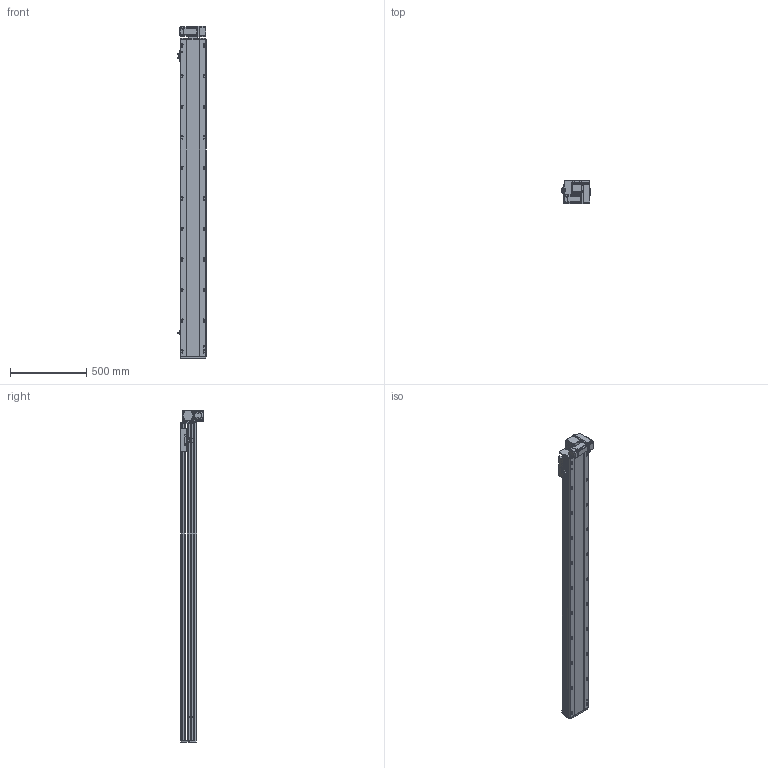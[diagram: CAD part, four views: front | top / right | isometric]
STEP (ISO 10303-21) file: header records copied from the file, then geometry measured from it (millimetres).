
FILE_DESCRIPTION (( 'STEP AP214' ), '1' );
FILE_NAME ('RTB17S-XX-1800-RM-M40-C4.STEP', '2025-12-11T08:23:27', ( '' ), ( '' ), 'SwSTEP 2.0', 'SolidWorks 2018', '' );
FILE_SCHEMA (( 'AUTOMOTIVE_DESIGN' ));
Length unit declared in the file: millimetre
Products named in the file (14): RTB14-L-005P--轴承塑胶压盖^RTB17S-RM-皮带座装配-400W_RTB17S-XX-XX-RM-M40-C4; RTB17S-L-007奻裔^RTB17S-XX-XX-RM-M40-C4; RTB17S-L-001耜醱啣^RTB17S-XX-XX-RM-M40-C4; RTB14-L-017P^RTB17S-RM-々湍釱蚾饜-400W_RTB17S-XX-XX-RM-M40-C4; RTB14-L-008-M20--萇儂啣^RTB17S-RM-々湍釱蚾饜-400W_RTB17S-XX-XX-RM-M40-C4; RTB14-L-018P^RTB17S-RM-々湍釱蚾饜-400W_RTB17S-XX-XX-RM-M40-C4; RTB17S-L-014-T20--々湍釱^RTB17S-RM-々湍釱蚾饜-400W_RTB17S-XX-XX-RM-M40-C4; RTB17-R-011菁釱^RTB17S-XX-XX-RM-M40-C4; RTH13-BL-012覜茼え俋离^RTB17S-XX-XX-RM-M40-C4; RTB17S-L-004佪裝蹟譫蟀諉釱^RTB17S-XX-XX-RM-M40-C4; RTB17S-XX-1800-RM-M40-C4; RTB17S-RM-々湍釱蚾饜-400W^RTB17S-XX-XX-RM-M40-C4; 400W侜督萇儂^RTB17S-XX-XX-RM-M40-C4; OMRON EE-SX672 传感器^RTB17S-XX-XX-RM-M40-C4
Assembly tree (16 placements, depth 3):
  RTB17S-XX-1800-RM-M40-C4
    RTB17-R-011菁釱^RTB17S-XX-XX-RM-M40-C4
    RTB17S-L-007奻裔^RTB17S-XX-XX-RM-M40-C4
    OMRON EE-SX672 传感器^RTB17S-XX-XX-RM-M40-C4  x3
    RTB17S-L-001耜醱啣^RTB17S-XX-XX-RM-M40-C4
    400W侜督萇儂^RTB17S-XX-XX-RM-M40-C4
    RTB17S-L-004佪裝蹟譫蟀諉釱^RTB17S-XX-XX-RM-M40-C4
    RTH13-BL-012覜茼え俋离^RTB17S-XX-XX-RM-M40-C4
    RTB17S-RM-々湍釱蚾饜-400W^RTB17S-XX-XX-RM-M40-C4
      RTB17S-L-014-T20--々湍釱^RTB17S-RM-々湍釱蚾饜-400W_RTB17S-XX-XX-RM-M40-C4
      RTB14-L-005P--轴承塑胶压盖^RTB17S-RM-皮带座装配-400W_RTB17S-XX-XX-RM-M40-C4
      RTB14-L-008-M20--萇儂啣^RTB17S-RM-々湍釱蚾饜-400W_RTB17S-XX-XX-RM-M40-C4
      RTB14-L-017P^RTB17S-RM-々湍釱蚾饜-400W_RTB17S-XX-XX-RM-M40-C4  x2
      RTB14-L-018P^RTB17S-RM-々湍釱蚾饜-400W_RTB17S-XX-XX-RM-M40-C4
Bounding box: 183.5 x 156.5 x 2172.5 mm (x, y, z)
Volume: 18900911 mm3; surface area: 2208598.6 mm2
Topology: 15 solids, 15 shells, 2269 faces, 6303 edges, 4113 vertices
Faces by surface type: plane 1076, cylinder 745, bspline 301, cone 139, torus 8
Entity records: 65705 total; most frequent: CARTESIAN_POINT 18508, ORIENTED_EDGE 9450, DIRECTION 8756, EDGE_CURVE 4725, VERTEX_POINT 3101, AXIS2_PLACEMENT_3D 3031, VECTOR 2694, LINE 2694
